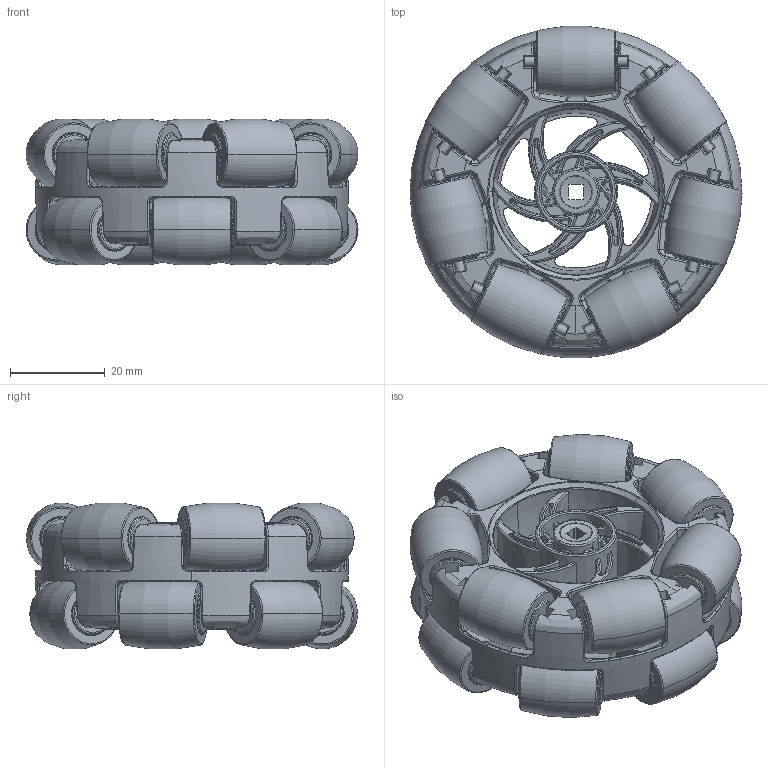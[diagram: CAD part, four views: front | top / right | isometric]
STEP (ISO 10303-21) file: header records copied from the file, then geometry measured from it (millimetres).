
FILE_DESCRIPTION (( 'STEP AP203' ), '1' );
FILE_NAME ('276-1902.STEP', '2011-04-18T22:34:29', ( '' ), ( '' ), 'SwSTEP 2.0', 'SolidWorks 2010', '' );
FILE_SCHEMA (( 'CONFIG_CONTROL_DESIGN' ));
Length unit declared in the file: inch
Products named in the file (6): 276-1902; ASM-SMALL-WHEEL_ASM; SMALL-WHEEL-AXIS; SMALL-HUB; SMALL-RUBBER-WHEEL; 275-OMNI-DIRECTIONAL-WHEEL
Assembly tree (18 placements, depth 3):
  276-1902
    ASM-SMALL-WHEEL_ASM  x14
      SMALL-RUBBER-WHEEL
      SMALL-HUB
      SMALL-WHEEL-AXIS
    275-OMNI-DIRECTIONAL-WHEEL
Bounding box: 70 x 69.79 x 30.76 mm (x, y, z)
Volume: 55017.8 mm3; surface area: 60285 mm2
Topology: 43 solids, 43 shells, 2754 faces, 7388 edges, 4724 vertices
Faces by surface type: bspline 1102, plane 636, cylinder 518, cone 376, torus 122
Entity records: 95982 total; most frequent: CARTESIAN_POINT 61142, ORIENTED_EDGE 9628, EDGE_CURVE 4814, DIRECTION 3759, VERTEX_POINT 3008, B_SPLINE_CURVE_WITH_KNOTS 2905, EDGE_LOOP 1792, FACE_OUTER_BOUND 1766
